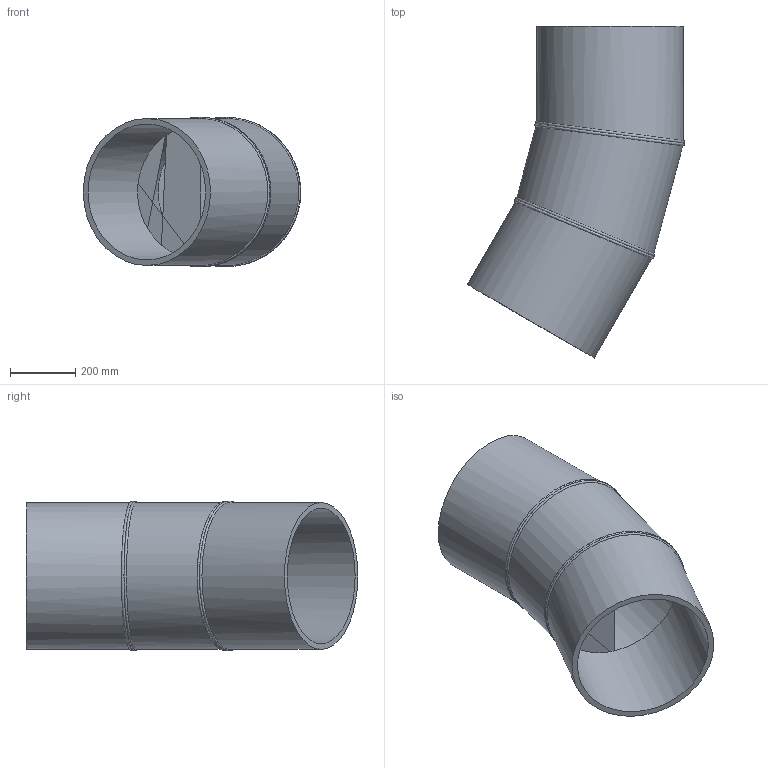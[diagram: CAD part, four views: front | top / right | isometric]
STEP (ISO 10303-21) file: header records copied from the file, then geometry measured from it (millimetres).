
FILE_DESCRIPTION(/* description */ ('Unknown'),/* implementation_level */ '2;1');
FILE_NAME(/* name */ 'Curva 30° a settore DE450 SDR26',/* time_stamp */ '2022-07-26T09:15:42+02:00',/* author */ ('Unknown'),/* organization */ ('Unknown'),/* preprocessor_version */ 'ST-DEVELOPER v18.102',/* originating_system */ 'Solid Edge',/* authorisation */ 'Unknown');
FILE_SCHEMA (('AUTOMOTIVE_DESIGN {1 0 10303 214 3 1 1}'));
Length unit declared in the file: millimetre
Products named in the file (3): Curva 30° a settore DE450 SDR26; Tubo x Gomito 30° DE450 SDR26 - 1; Tubo x Gomito 30° DE450 SDR26 - 2
Assembly tree (3 placements, depth 2):
  Curva 30° a settore DE450 SDR26
    Tubo x Gomito 30° DE450 SDR26 - 1  x2
    Tubo x Gomito 30° DE450 SDR26 - 2
Bounding box: 666.11 x 1016.63 x 458 mm (x, y, z)
Volume: 22564546.1 mm3; surface area: 2774391.9 mm2
Topology: 3 solids, 3 shells, 24 faces, 51 edges, 33 vertices
Faces by surface type: cylinder 14, plane 6, bspline 4
Full cylindrical faces by diameter (mm): 415.6 x3, 450 x3
Entity records: 2406 total; most frequent: CARTESIAN_POINT 2011, DIRECTION 70, ORIENTED_EDGE 52, AXIS2_PLACEMENT_3D 35, EDGE_LOOP 28, FACE_BOUND 28, EDGE_CURVE 26, VERTEX_POINT 20
